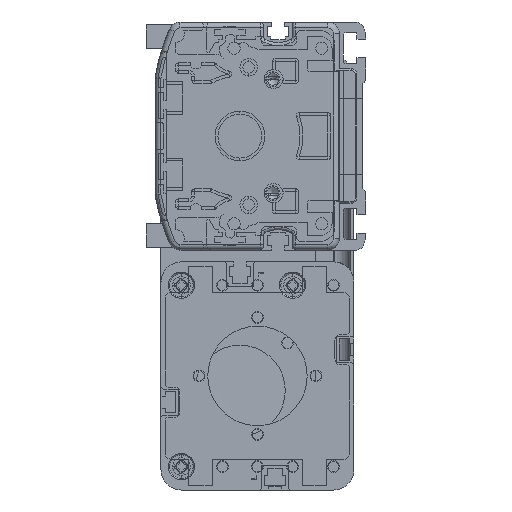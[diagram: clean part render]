
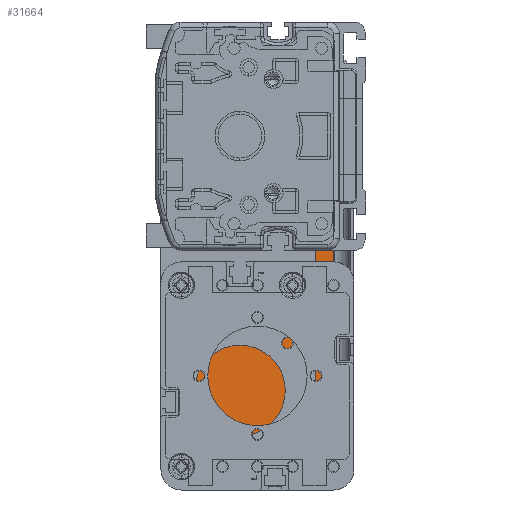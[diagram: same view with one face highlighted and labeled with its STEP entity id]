
A CAD part, left-side view. The second image highlights one B-rep face of the part: STEP entity #31664.
In plain terms, the highlighted spherical face has radius 998.8 mm.
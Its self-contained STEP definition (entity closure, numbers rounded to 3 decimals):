
#11538=CARTESIAN_POINT('',(329.,38.,-111.569));
#11539=DIRECTION('',(0.,0.,1.));
#11540=DIRECTION('',(1.,-0.026,0.));
#11541=AXIS2_PLACEMENT_3D('',#11538,#11539,#11540);
#11561=CARTESIAN_POINT('',(329.,38.,-111.569));
#11562=DIRECTION('',(0.,0.,1.));
#11563=DIRECTION('',(1.,0.007,0.));
#11564=AXIS2_PLACEMENT_3D('',#11561,#11562,#11563);
#11573=CARTESIAN_POINT('',(1325.688,44.777,
-111.569));
#11574=CARTESIAN_POINT('',(1325.741,44.493,
-110.776));
#11575=CARTESIAN_POINT('',(1325.841,43.643,
-109.292));
#11576=CARTESIAN_POINT('',(1325.952,41.684,
-107.641));
#11577=CARTESIAN_POINT('',(1326.011,39.279,
-106.764));
#11578=CARTESIAN_POINT('',(1326.011,36.72,
-106.764));
#11579=CARTESIAN_POINT('',(1325.952,34.316,
-107.642));
#11580=CARTESIAN_POINT('',(1325.841,32.356,
-109.293));
#11581=CARTESIAN_POINT('',(1325.741,31.507,
-110.776));
#11582=CARTESIAN_POINT('',(1325.688,31.223,
-111.569));
#11598=CARTESIAN_POINT('',(1325.688,31.223,17.569));
#11599=CARTESIAN_POINT('',(1325.741,31.506,16.779));
#11600=CARTESIAN_POINT('',(1325.84,32.352,15.299));
#11601=CARTESIAN_POINT('',(1325.952,34.313,13.642));
#11602=CARTESIAN_POINT('',(1326.011,36.72,12.764));
#11603=CARTESIAN_POINT('',(1326.011,39.281,12.764));
#11604=CARTESIAN_POINT('',(1325.952,41.688,13.643));
#11605=CARTESIAN_POINT('',(1325.84,43.649,15.3));
#11606=CARTESIAN_POINT('',(1325.741,44.494,16.78));
#11607=CARTESIAN_POINT('',(1325.688,44.777,17.569));
#11609=CARTESIAN_POINT('',(329.,64.152,-47.));
#11610=DIRECTION('',(0.,-1.,0.));
#11611=DIRECTION('',(0.998,0.,-0.065));
#11612=AXIS2_PLACEMENT_3D('',#11609,#11610,#11611);
#11645=CARTESIAN_POINT('',(329.,38.,17.569));
#11646=DIRECTION('',(0.,0.,-1.));
#11647=DIRECTION('',(1.,0.026,0.));
#11648=AXIS2_PLACEMENT_3D('',#11645,#11646,#11647);
#11659=CARTESIAN_POINT('',(329.,38.,17.569));
#11660=DIRECTION('',(0.,0.,-1.));
#11661=DIRECTION('',(1.,-0.007,0.));
#11662=AXIS2_PLACEMENT_3D('',#11659,#11660,#11661);
#11739=CARTESIAN_POINT('',(329.,11.848,-47.));
#11740=DIRECTION('',(0.,1.,0.));
#11741=DIRECTION('',(0.998,0.,0.065));
#11742=AXIS2_PLACEMENT_3D('',#11739,#11740,#11741);
#13298=VERTEX_POINT('',#11573);
#13299=VERTEX_POINT('',#11582);
#13300=CARTESIAN_POINT('',(1325.368,11.848,
-111.569));
#13301=VERTEX_POINT('',#13300);
#13302=CARTESIAN_POINT('',(1325.368,11.848,17.569));
#13303=VERTEX_POINT('',#13302);
#13304=CARTESIAN_POINT('',(1325.688,31.223,17.569));
#13305=VERTEX_POINT('',#13304);
#13306=VERTEX_POINT('',#11607);
#13307=CARTESIAN_POINT('',(1325.368,64.152,17.569));
#13308=VERTEX_POINT('',#13307);
#13309=CARTESIAN_POINT('',(1325.368,64.152,
-111.569));
#13310=VERTEX_POINT('',#13309);
#31644=CARTESIAN_POINT('',(329.,38.,-47.));
#31645=DIRECTION('',(0.,0.,-1.));
#31646=DIRECTION('',(1.,0.,0.));
#31647=AXIS2_PLACEMENT_3D('',#31644,#31645,#31646);
#31648=SPHERICAL_SURFACE('',#31647,998.8);
#31649=ORIENTED_EDGE('',*,*,#31635,.F.);
#31650=ORIENTED_EDGE('',*,*,#31621,.T.);
#31652=ORIENTED_EDGE('',*,*,#31651,.T.);
#31654=ORIENTED_EDGE('',*,*,#31653,.T.);
#31656=ORIENTED_EDGE('',*,*,#31655,.F.);
#31658=ORIENTED_EDGE('',*,*,#31657,.T.);
#31660=ORIENTED_EDGE('',*,*,#31659,.T.);
#31661=ORIENTED_EDGE('',*,*,#31614,.T.);
#31662=EDGE_LOOP('',(#31649,#31650,#31652,#31654,#31656,#31658,#31660,#31661));
#31663=FACE_OUTER_BOUND('',#31662,.F.);
#31664=ADVANCED_FACE('',(#31663),#31648,.F.);
#11542=CIRCLE('',#11541,996.711);
#11565=CIRCLE('',#11564,996.711);
#11583=B_SPLINE_CURVE_WITH_KNOTS('',3,(#11573,#11574,#11575,#11576,#11577,
#11578,#11579,#11580,#11581,#11582),.UNSPECIFIED.,.F.,.F.,(4,1,1,1,1,1,1,4),(
0.,0.143,0.286,0.429,0.571,
0.714,0.857,1.),.UNSPECIFIED.);
#11608=B_SPLINE_CURVE_WITH_KNOTS('',3,(#11598,#11599,#11600,#11601,#11602,
#11603,#11604,#11605,#11606,#11607),.UNSPECIFIED.,.F.,.F.,(4,1,1,1,1,1,1,4),(
0.,0.143,0.286,0.429,0.571,
0.714,0.857,1.),.UNSPECIFIED.);
#11613=CIRCLE('',#11612,998.458);
#11649=CIRCLE('',#11648,996.711);
#11663=CIRCLE('',#11662,996.711);
#11743=CIRCLE('',#11742,998.458);
#31614=EDGE_CURVE('',#13301,#13299,#11542,.T.);
#31621=EDGE_CURVE('',#13298,#13310,#11565,.T.);
#31635=EDGE_CURVE('',#13298,#13299,#11583,.T.);
#31651=EDGE_CURVE('',#13310,#13308,#11613,.T.);
#31653=EDGE_CURVE('',#13308,#13306,#11649,.T.);
#31655=EDGE_CURVE('',#13305,#13306,#11608,.T.);
#31657=EDGE_CURVE('',#13305,#13303,#11663,.T.);
#31659=EDGE_CURVE('',#13303,#13301,#11743,.T.);
